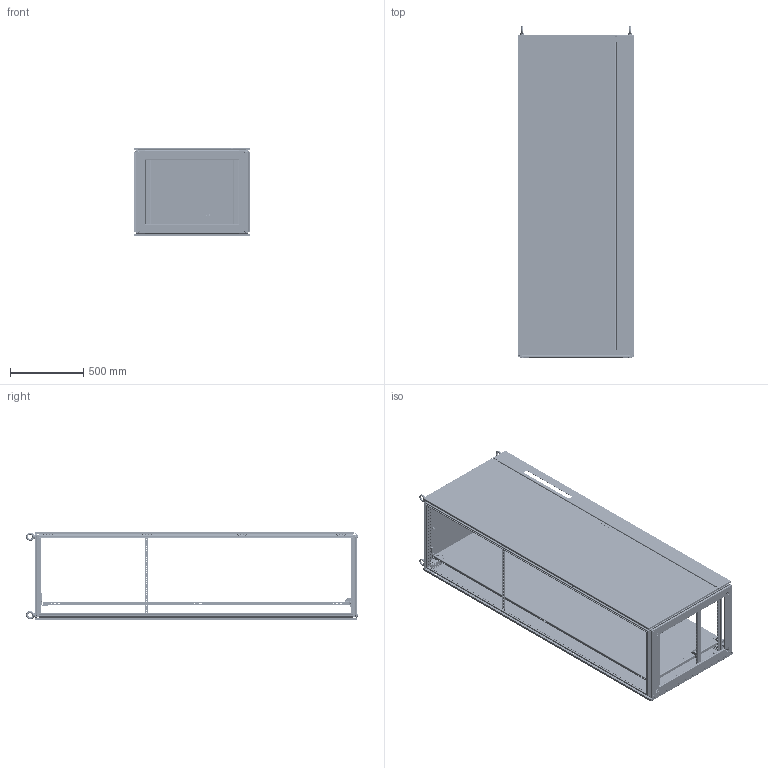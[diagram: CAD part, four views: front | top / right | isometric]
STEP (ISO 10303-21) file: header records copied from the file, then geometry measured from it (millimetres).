
FILE_DESCRIPTION((''),'2;1');
FILE_NAME('9951153_ASM','2015-03-11T',('us01724'),(''),'PRO/ENGINEER BY PARAMETRIC TECHNOLOGY CORPORATION, 2014310','PRO/ENGINEER BY PARAMETRIC TECHNOLOGY CORPORATION, 2014310','');
FILE_SCHEMA(('CONFIG_CONTROL_DESIGN'));
Products named in the file (56): D0242692_AF12; D0242692_AF13; D0277938_AF4; D0277938_AF5; D0242692; D0277938; D0242688; D0241135; D0275650_ASM; D0241538; D0241473; D0241152; D0208517; D0241463_TS_MPL_SLIDE_BLOCK_L; D0241464_TS_MPL_SLIDE_BLOCK_R; D0241469_TS_MPL_RETAINER_RIGHT; D0241468_TS_MPL_RETAINER_LEFT; D0271600; 211119; D0274958; D0043242; TS_GASKET_DOOR_FMDC_2200; D0242763_TS8_GROUND_STUD_M8; D0242763_TS8_CAP_M8; D0242763_ASM; D0207315; D0242679; D0041315; D0223916; D0043242_ASM; D0043310; TS_GASKET_DR_FMDC_LEFT_0722; D0233320; D0233332; D0214486; D0272086_ASM; D0241493; D0241497; D0042690; D0030693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
Assembly tree (136 placements, depth 4):
  9951153_ASM
    D0275650_ASM
      D0242692_AF12
      D0242692_AF13
      D0277938_AF4
      D0277938_AF5
      D0242692  x2
      D0277938  x2
      D0242688  x4
      D0241135  x8
    D0241538  x2
    D0241473  x2
    D0241152  x3
    D0208517  x2
    D0241463_TS_MPL_SLIDE_BLOCK_L
    D0241464_TS_MPL_SLIDE_BLOCK_R
    D0241469_TS_MPL_RETAINER_RIGHT
    D0241468_TS_MPL_RETAINER_LEFT
    D0271600
    211119
    D0274958  x8
    D0043242_ASM
      D0043242
      TS_GASKET_DOOR_FMDC_2200
      D0242763_ASM  x2
        D0242763_TS8_GROUND_STUD_M8
        D0242763_TS8_CAP_M8
      D0207315  x4
      D0242679  x3
      D0041315  x4
      D0223916
    D0043310_ASM
      D0043310
      TS_GASKET_DR_FMDC_LEFT_0722
      D0242763_ASM  x2
        D0242763_TS8_GROUND_STUD_M8
        D0242763_TS8_CAP_M8
      D0242679  x6
      D0207315  x4
      D0223916  x8
      D0272086_ASM
        D0233320  x2
        D0233332  x2
        D0214486  x4
      TS_LOCKBAR_ASSY_2200_DBL_ASM
        D0241493
        D0241497  x2
        D0042690  x2
        D0030693  x4
    D0275682_ASM
      D0275682
      TS_GASKET_ROOF_0806
      D0242763_ASM  x2
        D0242763_TS8_GROUND_STUD_M8
        D0242763_TS8_CAP_M8
    D0275871  x4
    D0055189_ASM
      TS_BASE_FRAME_MEM_600_NO_NOTCH  x2
      TS_BASE_FRAME_CORNER  x4
      TS_BASE_FRAME_MEM_800_NO_NOTCH  x2
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Bounding box: 797 x 2264.45 x 605.62 mm (x, y, z)
Volume: 18342076.6 mm3; surface area: 18887649 mm2
Topology: 150 solids, 158 shells, 22016 faces, 62097 edges, 40144 vertices
Faces by surface type: plane 12754, cylinder 8080, cone 376, torus 324, bspline 228, sphere 158, extrusion 96
Entity records: 305593 total; most frequent: CARTESIAN_POINT 57912, ORIENTED_EDGE 50666, DIRECTION 50508, EDGE_CURVE 25337, VECTOR 17536, LINE 17512, AXIS2_PLACEMENT_3D 16486, VERTEX_POINT 16444
